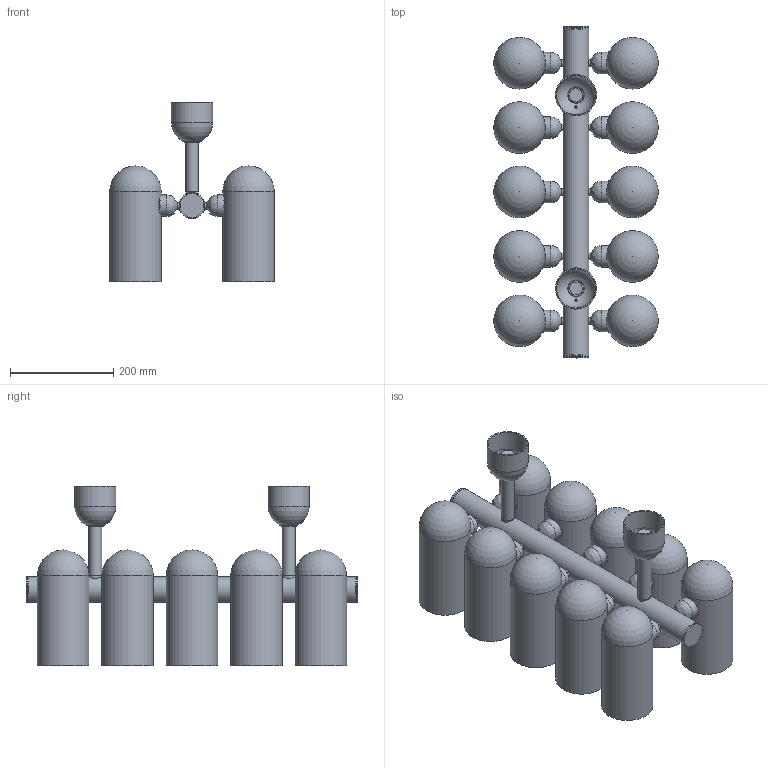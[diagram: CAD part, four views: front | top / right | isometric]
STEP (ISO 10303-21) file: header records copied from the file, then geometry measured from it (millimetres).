
FILE_DESCRIPTION(/* description */ (''),/* implementation_level */ '2;1');
FILE_NAME(/* name */ 'T:\B143 Odyssey Linear Chandelier XS\Pliki bryłowe handlowe\B143 Odyssey Linear XS 3D files_na stronę\B143 Odyssey Linear XS.stp',/* time_stamp */ '2022-02-02T13:34:49+01:00',/* author */ ('Mariusz Awariusz'),/* organization */ (''),/* preprocessor_version */ 'ST-DEVELOPER v18.1',/* originating_system */ 'Autodesk Inventor 2022',/* authorisation */ '');
FILE_SCHEMA (('AUTOMOTIVE_DESIGN { 1 0 10303 214 3 1 1 }'));
Length unit declared in the file: millimetre
Products named in the file (1): B143 Odyssey Linear Chandelier XS CE v12_na potrzeby plików 3D_2_
jako część_korpusy bryłowe
Bounding box: 319.1 x 644 x 349 mm (x, y, z)
Volume: 18358545.4 mm3; surface area: 1108963.3 mm2
Topology: 53 solids, 53 shells, 229 faces, 387 edges, 256 vertices
Faces by surface type: cylinder 89, plane 86, bspline 32, sphere 16, cone 6
Full cylindrical faces by diameter (mm): 4 x2, 13 x10, 25 x4, 28 x4, 30 x2, 31.5 x2, 32 x2, 37 x10, 42 x10, 44 x10, 46 x2, 48 x2, 50 x3, 76 x2, 80 x2, 100 x10
Entity records: 19708 total; most frequent: CARTESIAN_POINT 15305, DIRECTION 953, ORIENTED_EDGE 754, AXIS2_PLACEMENT_3D 430, EDGE_CURVE 377, EDGE_LOOP 263, VERTEX_POINT 256, CIRCLE 232
